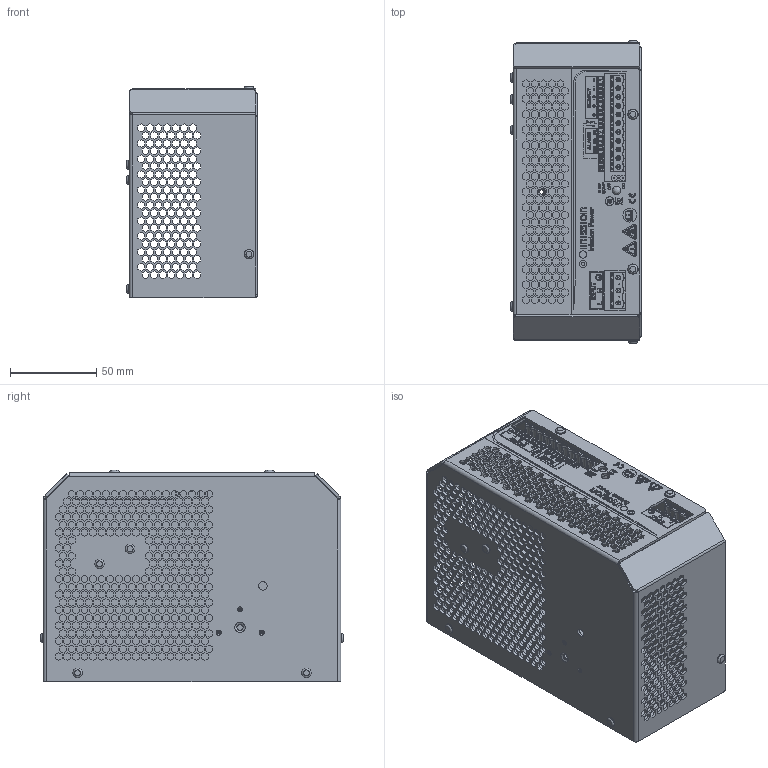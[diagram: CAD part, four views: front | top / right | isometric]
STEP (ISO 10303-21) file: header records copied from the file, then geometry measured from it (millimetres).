
FILE_DESCRIPTION (( 'STEP AP203' ), '1' );
FILE_NAME ('ADC-250W-3D-Model-2.STEP', '2026-05-19T10:14:34', ( '' ), ( '' ), 'SwSTEP 2.0', 'SolidWorks 2018', '' );
FILE_SCHEMA (( 'CONFIG_CONTROL_DESIGN' ));
Length unit declared in the file: millimetre
Products named in the file (1): ADC-250W-3D-Model-2
Bounding box: 76 x 176 x 122.8 mm (x, y, z)
Volume: 127515.9 mm3; surface area: 212195.6 mm2
Topology: 9 solids, 9 shells, 7016 faces, 20043 edges, 13302 vertices
Faces by surface type: plane 6236, bspline 404, cylinder 256, cone 77, torus 43
Full cylindrical faces by diameter (mm): 0.138 x1, 0.38 x2, 0.731 x1, 1.85 x1, 2 x3, 2.5 x13, 2.8 x2, 3 x3, 3.3 x1, 3.5 x2, 3.6 x1, 3.8 x1, 4.25 x2, 4.9 x1, 5 x4, 5.5 x8, 6 x2, 7.938 x1
Entity records: 246575 total; most frequent: CARTESIAN_POINT 63588, ORIENTED_EDGE 39720, DIRECTION 32749, EDGE_CURVE 19860, VECTOR 18329, LINE 18329, VERTEX_POINT 13241, EDGE_LOOP 8989
